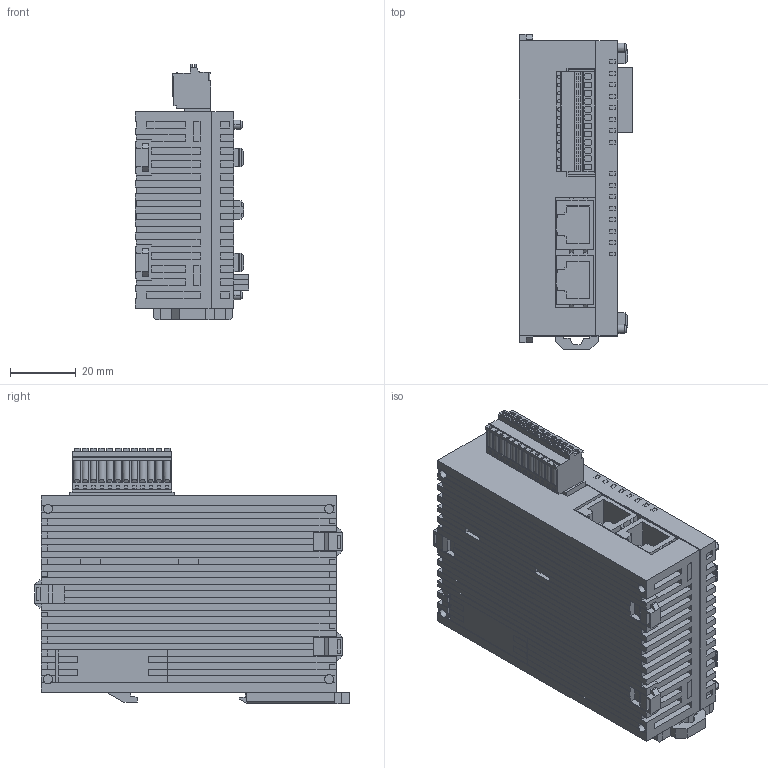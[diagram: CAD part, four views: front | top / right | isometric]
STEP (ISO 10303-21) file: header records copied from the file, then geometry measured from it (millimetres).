
FILE_DESCRIPTION (( 'STEP AP214' ), '1' );
FILE_NAME ('afpg43610.step', '2009-08-25T05:55:56', ( '' ), ( 'PanasonicElectricWorks' ), '', '', '' );
FILE_SCHEMA (( 'AUTOMOTIVE_DESIGN' ));
Length unit declared in the file: millimetre
Products named in the file (1): afpg43610
Bounding box: 34.5 x 96.1 x 78 mm (x, y, z)
Volume: 161951.4 mm3; surface area: 32471.2 mm2
Topology: 1 solids, 1 shells, 1308 faces, 3496 edges, 2310 vertices
Faces by surface type: plane 1206, cylinder 94, cone 8
Entity records: 54435 total; most frequent: CARTESIAN_POINT 7151, ORIENTED_EDGE 6992, DIRECTION 6310, EDGE_CURVE 3496, VECTOR 3276, LINE 3276, VERTEX_POINT 2310, AXIS2_PLACEMENT_3D 1517
